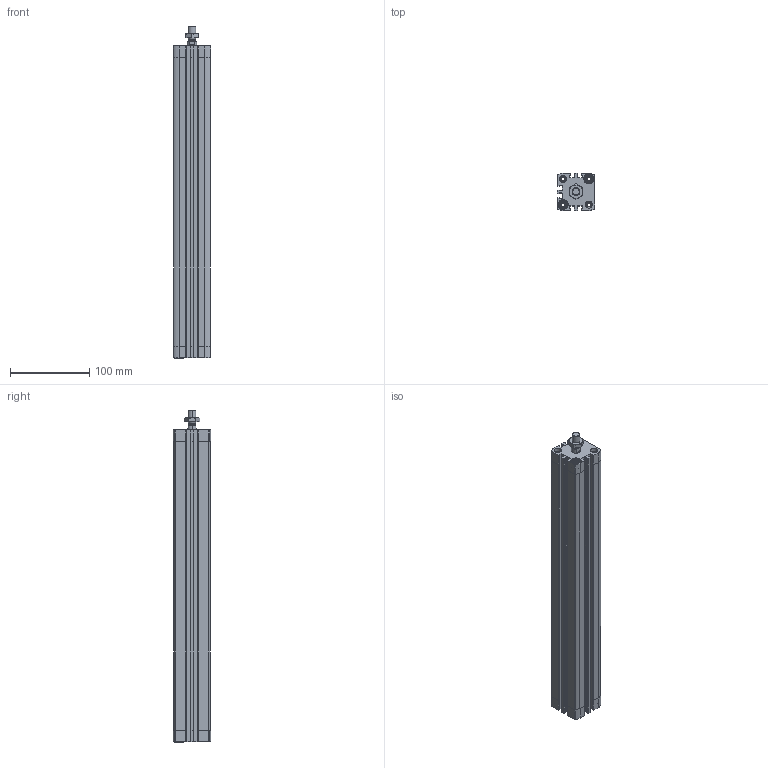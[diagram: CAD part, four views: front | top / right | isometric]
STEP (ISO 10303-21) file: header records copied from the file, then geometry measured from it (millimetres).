
FILE_DESCRIPTION (( 'STEP AP203' ), '1' );
FILE_NAME ('CCN32-350M.STEP', '2017-03-29T13:54:13', ( '' ), ( '' ), 'SwSTEP 2.0', 'SolidWorks 2016', '' );
FILE_SCHEMA (( 'CONFIG_CONTROL_DESIGN' ));
Length unit declared in the file: millimetre
Products named in the file (4): CCN-350---(Z); CCN-350_(KS); _DIN-439-B - M10x1.25(F); CCN32-350M
Assembly tree (3 placements, depth 2):
  CCN32-350M
    CCN-350---(Z)
    CCN-350_(KS)
    _DIN-439-B - M10x1.25(F)
Bounding box: 47 x 47 x 419 mm (x, y, z)
Volume: 476166.9 mm3; surface area: 193851.6 mm2
Topology: 3 solids, 3 shells, 499 faces, 1336 edges, 874 vertices
Faces by surface type: plane 275, cylinder 172, cone 48, bspline 4
Entity records: 16266 total; most frequent: CARTESIAN_POINT 3123, DIRECTION 2724, ORIENTED_EDGE 2672, EDGE_CURVE 1336, AXIS2_PLACEMENT_3D 999, VERTEX_POINT 874, LINE 726, VECTOR 726
